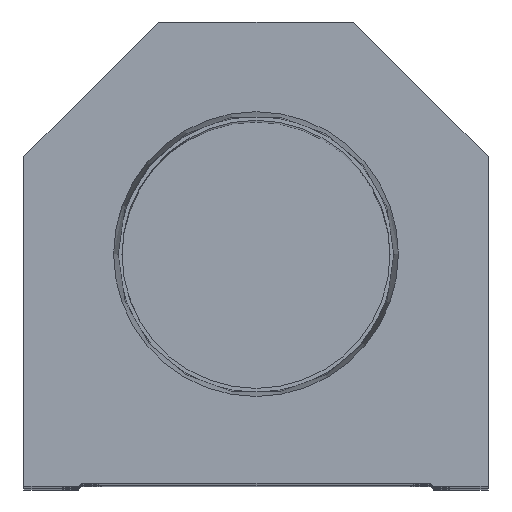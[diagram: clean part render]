
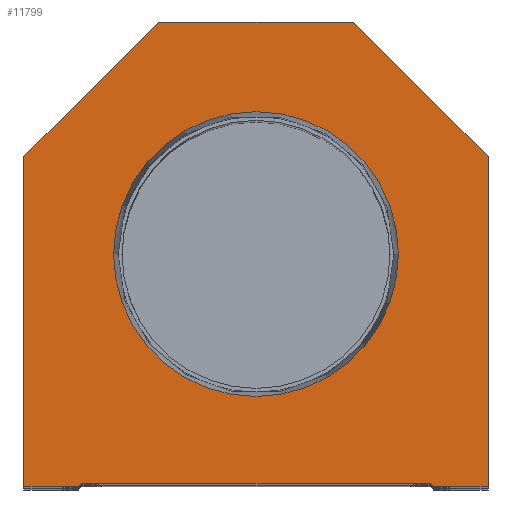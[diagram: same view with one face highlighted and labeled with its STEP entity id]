
A CAD part, top view. The second image highlights one B-rep face of the part: STEP entity #11799.
In plain terms, the highlighted planar face has unit normal (0, 0, 1).
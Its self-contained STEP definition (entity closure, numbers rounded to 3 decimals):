
#13 = CARTESIAN_POINT ( 'NONE',  ( 38.1, 54.1, 0. ) ) ;
#207 = VERTEX_POINT ( 'NONE', #17916 ) ;
#278 = VERTEX_POINT ( 'NONE', #10080 ) ;
#408 = ORIENTED_EDGE ( 'NONE', *, *, #5395, .T. ) ;
#653 = VECTOR ( 'NONE', #15552, 1000. ) ;
#735 = VERTEX_POINT ( 'NONE', #16754 ) ;
#753 = ORIENTED_EDGE ( 'NONE', *, *, #13286, .F. ) ;
#1066 = CARTESIAN_POINT ( 'NONE',  ( -16., 76.2, 0. ) ) ;
#1327 = VECTOR ( 'NONE', #9228, 1000. ) ;
#2348 = VERTEX_POINT ( 'NONE', #12785 ) ;
#3031 = EDGE_CURVE ( 'NONE', #7619, #14867, #8270, .T. ) ;
#3309 = CARTESIAN_POINT ( 'NONE',  ( -38.1, 54.1, 0. ) ) ;
#4228 = VERTEX_POINT ( 'NONE', #6719 ) ;
#4280 = VERTEX_POINT ( 'NONE', #10195 ) ;
#4282 = CARTESIAN_POINT ( 'NONE',  ( -28.6, 0., 0. ) ) ;
#4500 = DIRECTION ( 'NONE',  ( 1., 0., 0. ) ) ;
#4691 = FACE_BOUND ( 'NONE', #10014, .T. ) ;
#4905 = CARTESIAN_POINT ( 'NONE',  ( 28.6, 0., 0. ) ) ;
#5044 = DIRECTION ( 'NONE',  ( 1., 0., 0. ) ) ;
#5143 = VECTOR ( 'NONE', #11523, 1000. ) ;
#5395 = EDGE_CURVE ( 'NONE', #18614, #4228, #9687, .T. ) ;
#5443 = CARTESIAN_POINT ( 'NONE',  ( -23.374, 38.1, 0. ) ) ;
#5645 = VECTOR ( 'NONE', #14842, 1000. ) ;
#5737 = DIRECTION ( 'NONE',  ( 0.707, 0.707, 0. ) ) ;
#5849 = EDGE_CURVE ( 'NONE', #207, #15452, #14265, .T. ) ;
#6010 = AXIS2_PLACEMENT_3D ( 'NONE', #7193, #9358, #17585 ) ;
#6365 = CARTESIAN_POINT ( 'NONE',  ( -28.6, 0.5, 0. ) ) ;
#6712 = CARTESIAN_POINT ( 'NONE',  ( -29.1, 0., 0. ) ) ;
#6719 = CARTESIAN_POINT ( 'NONE',  ( 38.1, 0., 0. ) ) ;
#6738 = EDGE_CURVE ( 'NONE', #735, #18614, #20627, .T. ) ;
#6975 = CARTESIAN_POINT ( 'NONE',  ( 38.1, 54.1, 0. ) ) ;
#7077 = AXIS2_PLACEMENT_3D ( 'NONE', #19778, #9682, #19677 ) ;
#7193 = CARTESIAN_POINT ( 'NONE',  ( 0., 38.1, 0. ) ) ;
#7258 = CARTESIAN_POINT ( 'NONE',  ( 29.1, 0., 0. ) ) ;
#7619 = VERTEX_POINT ( 'NONE', #1066 ) ;
#7750 = ORIENTED_EDGE ( 'NONE', *, *, #18763, .T. ) ;
#7775 = CIRCLE ( 'NONE', #6010, 23.374 ) ;
#7871 = LINE ( 'NONE', #14554, #17711 ) ;
#8270 = LINE ( 'NONE', #3309, #5645 ) ;
#8294 = EDGE_CURVE ( 'NONE', #4228, #18346, #7871, .T. ) ;
#8416 = EDGE_CURVE ( 'NONE', #14867, #207, #18343, .T. ) ;
#8523 = ORIENTED_EDGE ( 'NONE', *, *, #3031, .T. ) ;
#8853 = EDGE_CURVE ( 'NONE', #15452, #4280, #15910, .T. ) ;
#9228 = DIRECTION ( 'NONE',  ( 0.707, -0.707, 0. ) ) ;
#9320 = CARTESIAN_POINT ( 'NONE',  ( 0., 38.1, 0. ) ) ;
#9358 = DIRECTION ( 'NONE',  ( 0., 0., 1. ) ) ;
#9448 = ORIENTED_EDGE ( 'NONE', *, *, #21235, .F. ) ;
#9562 = AXIS2_PLACEMENT_3D ( 'NONE', #9320, #11035, #12884 ) ;
#9682 = DIRECTION ( 'NONE',  ( 0., 0., 1. ) ) ;
#9683 = CARTESIAN_POINT ( 'NONE',  ( -38.1, 0., 0. ) ) ;
#9687 = LINE ( 'NONE', #4905, #5143 ) ;
#9754 = VECTOR ( 'NONE', #14864, 1000. ) ;
#9788 = ORIENTED_EDGE ( 'NONE', *, *, #5849, .T. ) ;
#10014 = EDGE_LOOP ( 'NONE', ( #9448, #753 ) ) ;
#10080 = CARTESIAN_POINT ( 'NONE',  ( 16., 76.2, 0. ) ) ;
#10195 = CARTESIAN_POINT ( 'NONE',  ( -28.6, 0.5, 0. ) ) ;
#10256 = LINE ( 'NONE', #17184, #653 ) ;
#10740 = CARTESIAN_POINT ( 'NONE',  ( 14.55, 14.55, 0. ) ) ;
#11035 = DIRECTION ( 'NONE',  ( 0., 0., 1. ) ) ;
#11417 = VECTOR ( 'NONE', #4500, 1000. ) ;
#11523 = DIRECTION ( 'NONE',  ( 1., 0., 0. ) ) ;
#11799 = ADVANCED_FACE ( 'NONE', ( #4691, #21398 ), #17929, .T. ) ;
#12053 = ORIENTED_EDGE ( 'NONE', *, *, #6738, .T. ) ;
#12785 = CARTESIAN_POINT ( 'NONE',  ( 23.374, 38.1, 0. ) ) ;
#12884 = DIRECTION ( 'NONE',  ( 1., 0., 0. ) ) ;
#13087 = EDGE_LOOP ( 'NONE', ( #9788, #16479, #7750, #12053, #408, #17173, #19979, #20304, #8523, #19623 ) ) ;
#13286 = EDGE_CURVE ( 'NONE', #15971, #2348, #16156, .T. ) ;
#14265 = LINE ( 'NONE', #4282, #11417 ) ;
#14554 = CARTESIAN_POINT ( 'NONE',  ( 38.1, 0., 0. ) ) ;
#14842 = DIRECTION ( 'NONE',  ( -0.707, -0.707, 0. ) ) ;
#14864 = DIRECTION ( 'NONE',  ( 0., -1., 0. ) ) ;
#14867 = VERTEX_POINT ( 'NONE', #18940 ) ;
#15452 = VERTEX_POINT ( 'NONE', #6712 ) ;
#15552 = DIRECTION ( 'NONE',  ( -1., 0., 0. ) ) ;
#15709 = CARTESIAN_POINT ( 'NONE',  ( -14.55, 14.55, 0. ) ) ;
#15858 = DIRECTION ( 'NONE',  ( 0., 1., 0. ) ) ;
#15910 = LINE ( 'NONE', #15709, #15995 ) ;
#15971 = VERTEX_POINT ( 'NONE', #5443 ) ;
#15995 = VECTOR ( 'NONE', #5737, 1000. ) ;
#16156 = CIRCLE ( 'NONE', #9562, 23.374 ) ;
#16215 = DIRECTION ( 'NONE',  ( -0.707, 0.707, 0. ) ) ;
#16319 = LINE ( 'NONE', #13, #21156 ) ;
#16479 = ORIENTED_EDGE ( 'NONE', *, *, #8853, .T. ) ;
#16754 = CARTESIAN_POINT ( 'NONE',  ( 28.6, 0.5, 0. ) ) ;
#17173 = ORIENTED_EDGE ( 'NONE', *, *, #8294, .T. ) ;
#17184 = CARTESIAN_POINT ( 'NONE',  ( 16., 76.2, 0. ) ) ;
#17585 = DIRECTION ( 'NONE',  ( 1., 0., 0. ) ) ;
#17711 = VECTOR ( 'NONE', #15858, 1000. ) ;
#17916 = CARTESIAN_POINT ( 'NONE',  ( -38.1, 0., 0. ) ) ;
#17929 = PLANE ( 'NONE',  #7077 ) ;
#18343 = LINE ( 'NONE', #9683, #9754 ) ;
#18346 = VERTEX_POINT ( 'NONE', #6975 ) ;
#18614 = VERTEX_POINT ( 'NONE', #7258 ) ;
#18763 = EDGE_CURVE ( 'NONE', #4280, #735, #21241, .T. ) ;
#18940 = CARTESIAN_POINT ( 'NONE',  ( -38.1, 54.1, 0. ) ) ;
#18944 = EDGE_CURVE ( 'NONE', #278, #7619, #10256, .T. ) ;
#19067 = EDGE_CURVE ( 'NONE', #18346, #278, #16319, .T. ) ;
#19623 = ORIENTED_EDGE ( 'NONE', *, *, #8416, .T. ) ;
#19677 = DIRECTION ( 'NONE',  ( 1., 0., 0. ) ) ;
#19778 = CARTESIAN_POINT ( 'NONE',  ( 0., 0., 0. ) ) ;
#19979 = ORIENTED_EDGE ( 'NONE', *, *, #19067, .T. ) ;
#20304 = ORIENTED_EDGE ( 'NONE', *, *, #18944, .T. ) ;
#20627 = LINE ( 'NONE', #10740, #1327 ) ;
#21143 = VECTOR ( 'NONE', #5044, 1000. ) ;
#21156 = VECTOR ( 'NONE', #16215, 1000. ) ;
#21235 = EDGE_CURVE ( 'NONE', #2348, #15971, #7775, .T. ) ;
#21241 = LINE ( 'NONE', #6365, #21143 ) ;
#21398 = FACE_OUTER_BOUND ( 'NONE', #13087, .T. ) ;
